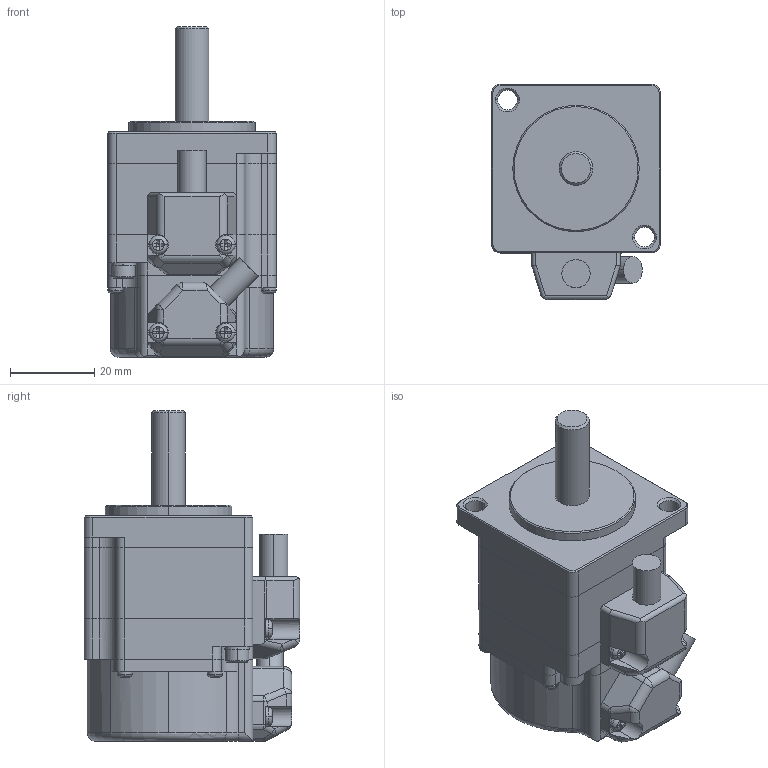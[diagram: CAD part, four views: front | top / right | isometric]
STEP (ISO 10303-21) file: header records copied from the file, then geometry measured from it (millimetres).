
FILE_DESCRIPTION(('Creo Elements/Direct Modeling STEP Export'),'2;1');
FILE_NAME('TS4601_BK無.stp','2016-12-22T13:59:50',(''),(''),'Creo Elements/Direct Modeling STEP processor for AP214 (Solid Model)','Creo Elements/Direct Modeling 17.0F 20-Aug-2012 (C) Parametric Technology GmbH','');
FILE_SCHEMA(('AUTOMOTIVE_DESIGN { 1 0 10303 214 1 1 1 1 }'));
Length unit declared in the file: millimetre
Products named in the file (1): TS4601N1000
Bounding box: 40 x 51.1 x 78.5 mm (x, y, z)
Volume: 84538.8 mm3; surface area: 13694 mm2
Topology: 1 solids, 1 shells, 564 faces, 1318 edges, 751 vertices
Faces by surface type: plane 265, cylinder 199, cone 50, sphere 31, torus 19
Entity records: 16423 total; most frequent: CARTESIAN_POINT 4136, DIRECTION 2602, ORIENTED_EDGE 2602, EDGE_CURVE 1301, AXIS2_PLACEMENT_3D 1022, VERTEX_POINT 751, EDGE_LOOP 584, FACE_OUTER_BOUND 564
